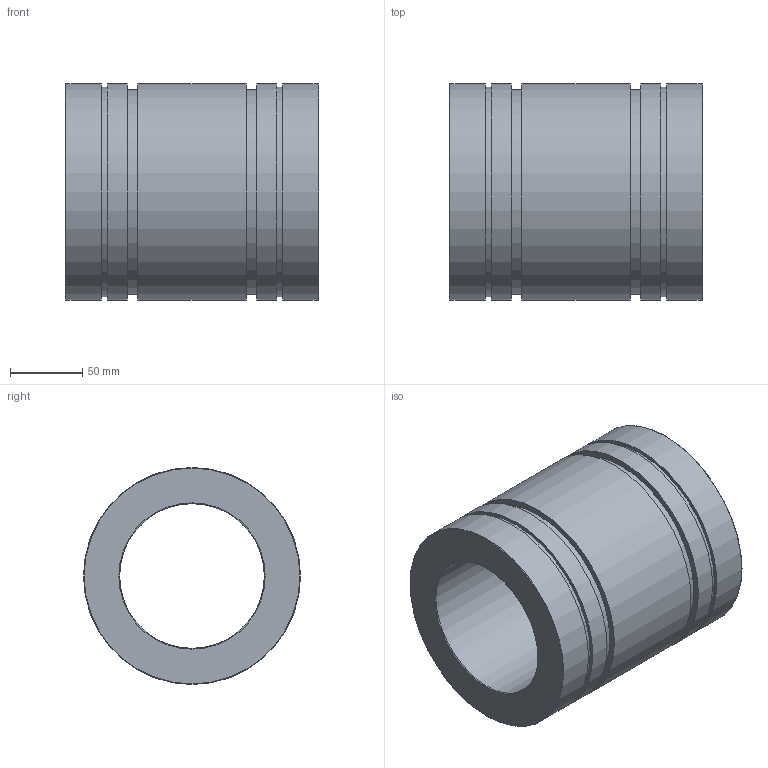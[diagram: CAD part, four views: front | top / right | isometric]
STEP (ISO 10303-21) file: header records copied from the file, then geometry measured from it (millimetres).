
FILE_DESCRIPTION(('STEP AP203'),'1');
FILE_NAME('//192.168.1.1/share/s-4 技術開発/s-4-4_CAD/s-4-4-3_見直し済み/PBC LINEAR修正済み/3D途中/FJ/FJ100.step','2022-03-24T06:50:58',(' '),(' '),'Spatial InterOp 3D',' ',' ');
FILE_SCHEMA(('CONFIG_CONTROL_DESIGN'));
Length unit declared in the file: millimetre
Products named in the file (1): 1
Bounding box: 175 x 150 x 150 mm (x, y, z)
Volume: 1679640.4 mm3; surface area: 168935.4 mm2
Topology: 1 solids, 1 shells, 24 faces, 38 edges, 24 vertices
Faces by surface type: cylinder 10, plane 10, torus 4
Full cylindrical faces by diameter (mm): 100 x1, 141.199 x2, 145 x2, 150 x5
Entity records: 532 total; most frequent: DIRECTION 98, CARTESIAN_POINT 73, AXIS2_PLACEMENT_3D 49, EDGE_LOOP 48, ORIENTED_EDGE 48, FACE_OUTER_BOUND 38, ADVANCED_FACE 24, EDGE_CURVE 24
